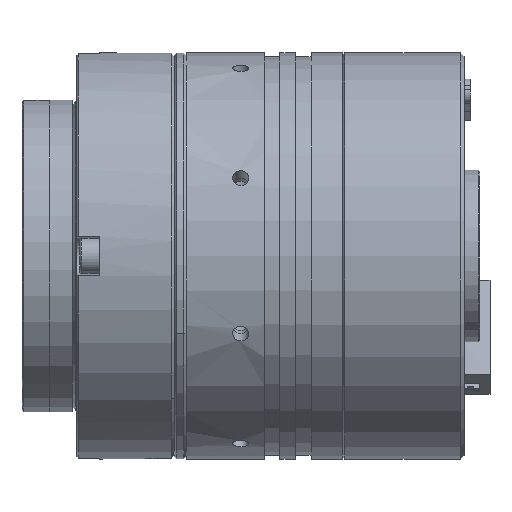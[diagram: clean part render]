
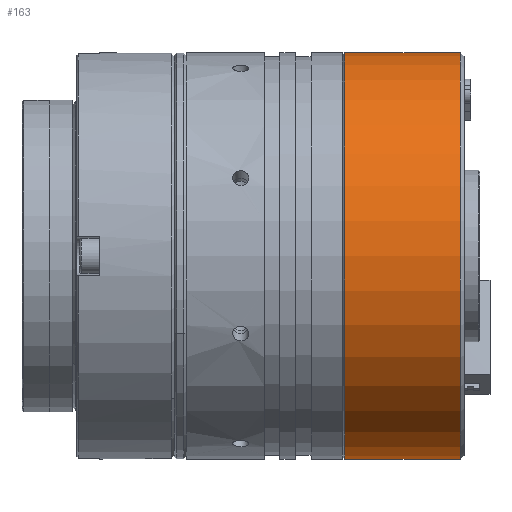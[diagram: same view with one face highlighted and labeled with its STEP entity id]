
A CAD part, front view. The second image highlights one B-rep face of the part: STEP entity #163.
In plain terms, the highlighted cylindrical face has radius 26 mm (diameter 52 mm), a full revolution.
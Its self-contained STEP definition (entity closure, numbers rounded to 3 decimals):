
#113=CARTESIAN_POINT('',(54.1,26.,-0.023));
#114=VERTEX_POINT('',#113);
#121=CARTESIAN_POINT('',(54.1,0.,0.));
#122=DIRECTION('',(0.,1.,-0.001));
#123=DIRECTION('',(1.,0.,0.));
#124=AXIS2_PLACEMENT_3D('',#121,#123,#122);
#125=CIRCLE('',#124,26.);
#126=EDGE_CURVE('',#114,#114,#125,.T.);
#139=CARTESIAN_POINT('',(54.1,0.,0.));
#140=DIRECTION('',(0.,1.,-0.001));
#141=DIRECTION('',(-1.,0.,0.));
#142=AXIS2_PLACEMENT_3D('',#139,#141,#140);
#143=CYLINDRICAL_SURFACE('',#142,26.);
#144=CARTESIAN_POINT('',(39.3,26.,-0.023));
#145=VERTEX_POINT('',#144);
#146=CARTESIAN_POINT('',(54.1,26.,-0.023));
#147=DIRECTION('',(-1.,0.,0.));
#148=VECTOR('',#147,14.8);
#149=LINE('',#146,#148);
#150=EDGE_CURVE('',#114,#145,#149,.T.);
#151=ORIENTED_EDGE('',*,*,#150,.T.);
#152=CARTESIAN_POINT('',(39.3,0.,0.));
#153=DIRECTION('',(0.,1.,-0.001));
#154=DIRECTION('',(1.,0.,0.));
#155=AXIS2_PLACEMENT_3D('',#152,#154,#153);
#156=CIRCLE('',#155,26.);
#157=EDGE_CURVE('',#145,#145,#156,.T.);
#158=ORIENTED_EDGE('',*,*,#157,.T.);
#159=ORIENTED_EDGE('',*,*,#150,.F.);
#160=ORIENTED_EDGE('',*,*,#126,.F.);
#161=EDGE_LOOP('',(#151,#158,#159,#160));
#162=FACE_OUTER_BOUND('',#161,.T.);
#163=ADVANCED_FACE('',(#162),#143,.T.);
